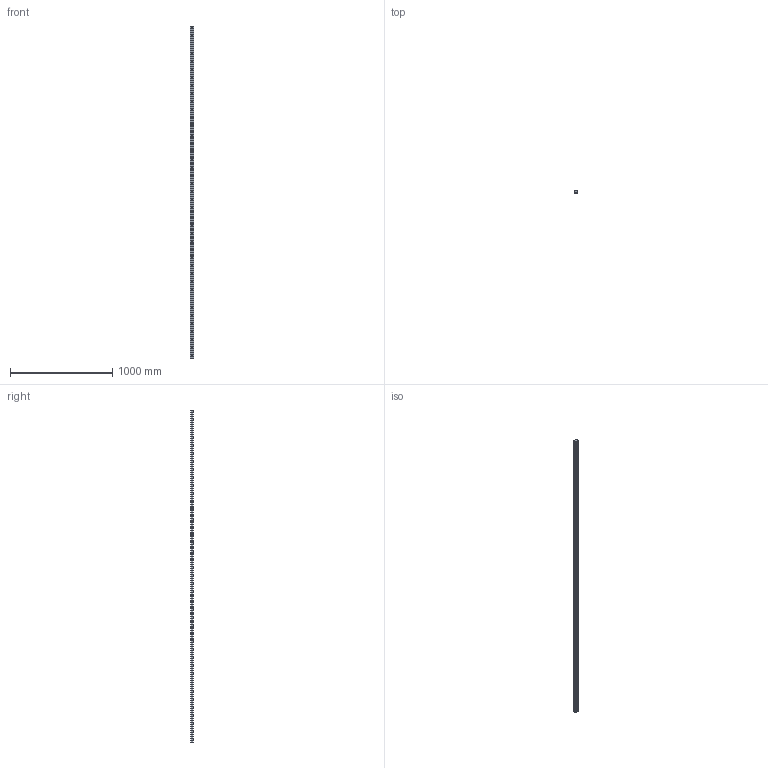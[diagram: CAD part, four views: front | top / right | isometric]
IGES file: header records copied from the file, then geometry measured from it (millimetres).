
Start section: SolidWorks IGES file using analytic representation for surfaces
Global section: file name: C:\Users\IanO\Desktop\Temp File\GENERAL\L1016_v2\L1016.RF35_v2\L1016.RF35_v2_20190612_IGES\L1016.RF35-3240.igs; native system: SolidWorks 2017; preprocessor: SolidWorks 2017; author: IanO; date: 190613.173259; units: millimetre
Bounding box: 34 x 26 x 3240 mm (x, y, z)
Surface area: 421903.6 mm2 (no closed solid volume)
Topology: 0 solids, 0 shells, 313 faces, 5088 edges, 5006 vertices
Faces by surface type: revolution 250, bspline 63
